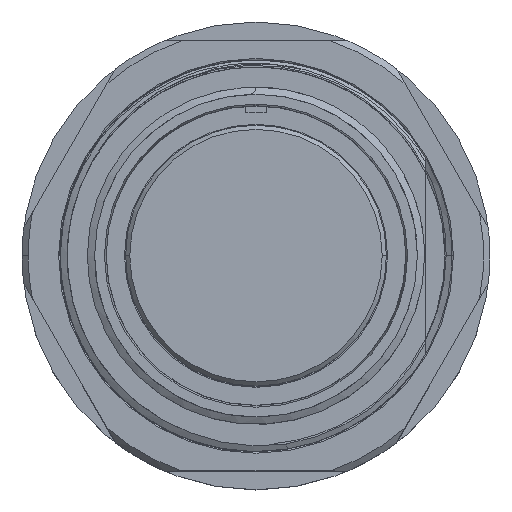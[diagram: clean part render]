
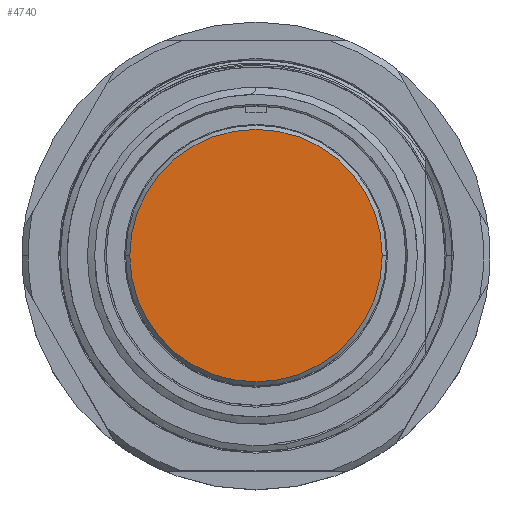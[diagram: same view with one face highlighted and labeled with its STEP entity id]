
A CAD part, top view. The second image highlights one B-rep face of the part: STEP entity #4740.
In plain terms, the highlighted planar face has unit normal (0, 0, 1).
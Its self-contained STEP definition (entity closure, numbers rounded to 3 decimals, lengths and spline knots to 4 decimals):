
#3524 = DIRECTION ( 'NONE',  ( 1., 0., 0. ) ) ;
#4740 = ADVANCED_FACE ( 'NONE', ( #72954 ), #83071, .T. ) ;
#9257 = EDGE_CURVE ( 'NONE', #97281, #53885, #101637, .T. ) ;
#14502 = EDGE_LOOP ( 'NONE', ( #118274, #55868 ) ) ;
#17094 = DIRECTION ( 'NONE',  ( 0., 0., 1. ) ) ;
#30600 = CARTESIAN_POINT ( 'NONE',  ( 0., 0., -0.018 ) ) ;
#48927 = CIRCLE ( 'NONE', #71049, 0.6045 ) ;
#53885 = VERTEX_POINT ( 'NONE', #93994 ) ;
#54290 = CARTESIAN_POINT ( 'NONE',  ( 0., 0., -0.018 ) ) ;
#54695 = DIRECTION ( 'NONE',  ( 1., 0., 0. ) ) ;
#55868 = ORIENTED_EDGE ( 'NONE', *, *, #9257, .T. ) ;
#60811 = DIRECTION ( 'NONE',  ( 0., 0., 1. ) ) ;
#71049 = AXIS2_PLACEMENT_3D ( 'NONE', #30600, #60811, #3524 ) ;
#72954 = FACE_OUTER_BOUND ( 'NONE', #14502, .T. ) ;
#83071 = PLANE ( 'NONE',  #119658 ) ;
#92556 = CARTESIAN_POINT ( 'NONE',  ( 0., 0., -0.018 ) ) ;
#93994 = CARTESIAN_POINT ( 'NONE',  ( -0.6045, 0., -0.018 ) ) ;
#97281 = VERTEX_POINT ( 'NONE', #121607 ) ;
#101637 = CIRCLE ( 'NONE', #117681, 0.6045 ) ;
#117681 = AXIS2_PLACEMENT_3D ( 'NONE', #54290, #17094, #120457 ) ;
#118274 = ORIENTED_EDGE ( 'NONE', *, *, #118324, .T. ) ;
#118324 = EDGE_CURVE ( 'NONE', #53885, #97281, #48927, .T. ) ;
#119658 = AXIS2_PLACEMENT_3D ( 'NONE', #92556, #122086, #54695 ) ;
#120457 = DIRECTION ( 'NONE',  ( 1., 0., 0. ) ) ;
#121607 = CARTESIAN_POINT ( 'NONE',  ( 0.6045, 0., -0.018 ) ) ;
#122086 = DIRECTION ( 'NONE',  ( 0., 0., 1. ) ) ;
